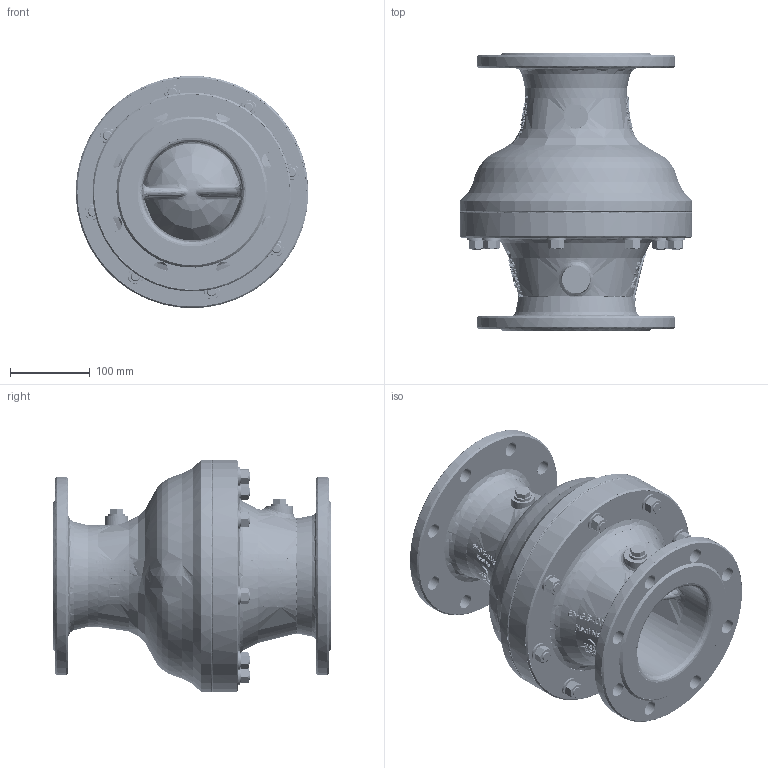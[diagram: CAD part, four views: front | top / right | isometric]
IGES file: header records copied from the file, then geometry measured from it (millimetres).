
Start section: P
Global section: file name: PSA_Hydro-Stop_DN125.igs; native system: By Siemens PLM Incorporated; preprocessor: XPlus GENERIC/IGES 25.1.153; author: Christin-Michelle Fremgen; organization: PSA Wasserarmaturen GmbH; date: 20241009.154629; units: millimetre
Bounding box: 292 x 350 x 291.66 mm (x, y, z)
Surface area: 653918 mm2 (no closed solid volume)
Topology: 0 solids, 0 shells, 1935 faces, 11073 edges, 11070 vertices
Faces by surface type: bspline 1935
